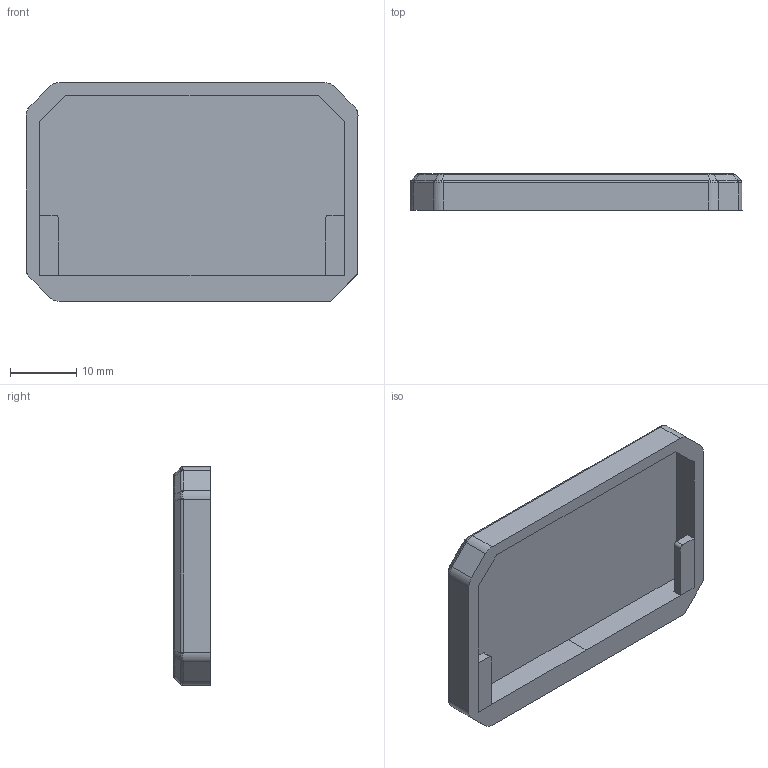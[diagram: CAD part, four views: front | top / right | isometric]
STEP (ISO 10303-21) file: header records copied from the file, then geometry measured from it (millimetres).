
FILE_DESCRIPTION(/* description */ (''),/* implementation_level */ '2;1');
FILE_NAME(/* name */ '硬盘卡槽',/* time_stamp */ '2023-02-14T16:27:27+08:00',/* author */ (''),/* organization */ (''),/* preprocessor_version */ 'ST-DEVELOPER v16.5',/* originating_system */ '',/* authorisation */ '');
FILE_SCHEMA (('AUTOMOTIVE_DESIGN'));
Length unit declared in the file: millimetre
Products named in the file (1): Document
Bounding box: 50.01 x 5.5 x 32.93 mm (x, y, z)
Volume: 4135.7 mm3; surface area: 4605.4 mm2
Topology: 1 solids, 1 shells, 88 faces, 216 edges, 131 vertices
Faces by surface type: bspline 73, plane 15
Entity records: 2673 total; most frequent: CARTESIAN_POINT 1453, ORIENTED_EDGE 432, EDGE_CURVE 216, VERTEX_POINT 131, EDGE_LOOP 89, ADVANCED_FACE 88, FACE_OUTER_BOUND 88, B_SPLINE_CURVE_WITH_KNOTS 84
